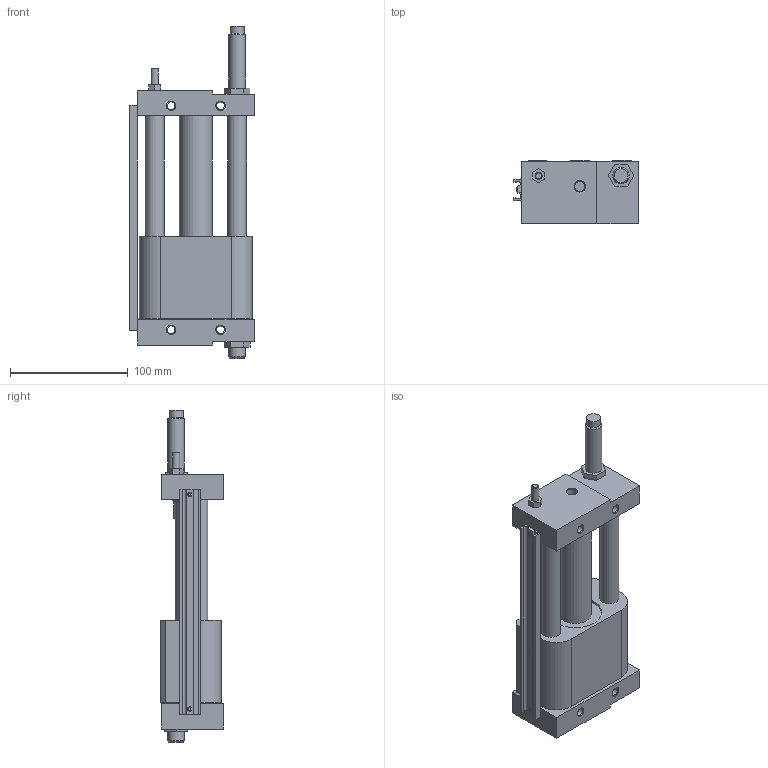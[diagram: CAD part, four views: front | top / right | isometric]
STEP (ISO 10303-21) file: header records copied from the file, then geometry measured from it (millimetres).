
FILE_DESCRIPTION( ( 'STEP AP214' ), '1' );
FILE_NAME( 'C:/Users/EMC02301/Desktop/111/ESWT25X100-S-BS.stp', '2026-07-29T05:27:31', ( 'License CC BY-ND 4.0' ), ( 'CADENAS' ), ' ', 'PARTsolutions', ' ' );
FILE_SCHEMA( ( 'AUTOMOTIVE_DESIGN { 1 0 10303 214 1 1 1 1 }' ) );
Length unit declared in the file: millimetre
Products named in the file (4): ESWT25X100-S-BS()(0); _ESWT25X100-S-BS(0)()_dummy; _ESWT25X100-S-BS(0)()_ROD; _ESWT25X100(0)()_BODY
Assembly tree (3 placements, depth 2):
  ESWT25X100-S-BS()(0)
    _ESWT25X100-S-BS(0)()_dummy
    _ESWT25X100-S-BS(0)()_ROD
    _ESWT25X100(0)()_BODY
Bounding box: 105.5 x 54 x 281.7 mm (x, y, z)
Volume: 659342.4 mm3; surface area: 127953.1 mm2
Topology: 2 solids, 5 shells, 184 faces, 399 edges, 258 vertices
Faces by surface type: plane 102, cylinder 47, cone 33, torus 2
Full cylindrical faces by diameter (mm): 3.5 x2, 4 x1, 4.134 x4, 4.917 x5, 5.8 x2, 6 x2, 6.647 x4, 7 x4, 8.566 x2, 9.6 x2, 11 x4, 11.8 x1, 14 x3, 16 x4, 27.8 x2, 45 x2
Entity records: 6081 total; most frequent: DIRECTION 813, CARTESIAN_POINT 742, ORIENTED_EDGE 616, EDGE_LOOP 319, AXIS2_PLACEMENT_3D 317, EDGE_CURVE 308, VERTEX_POINT 245, FACE_OUTER_BOUND 230
